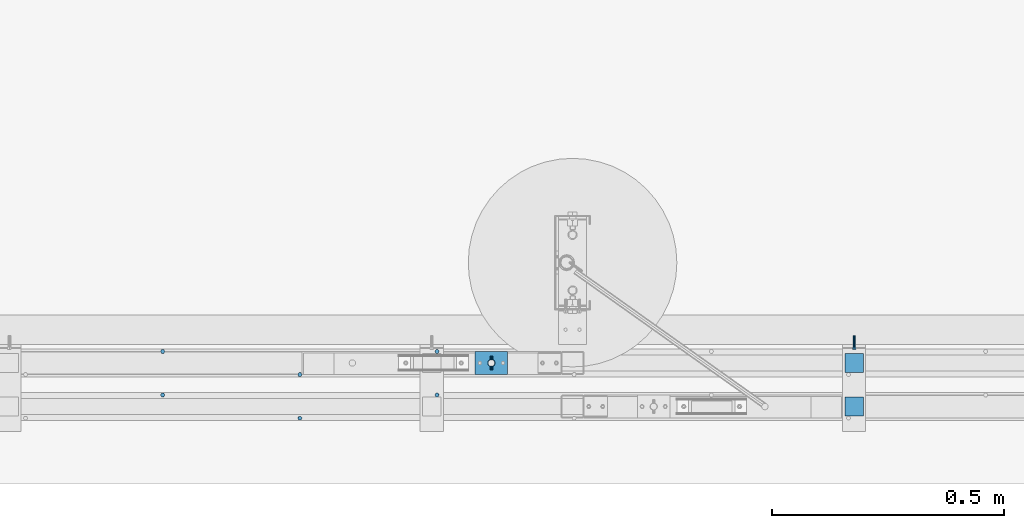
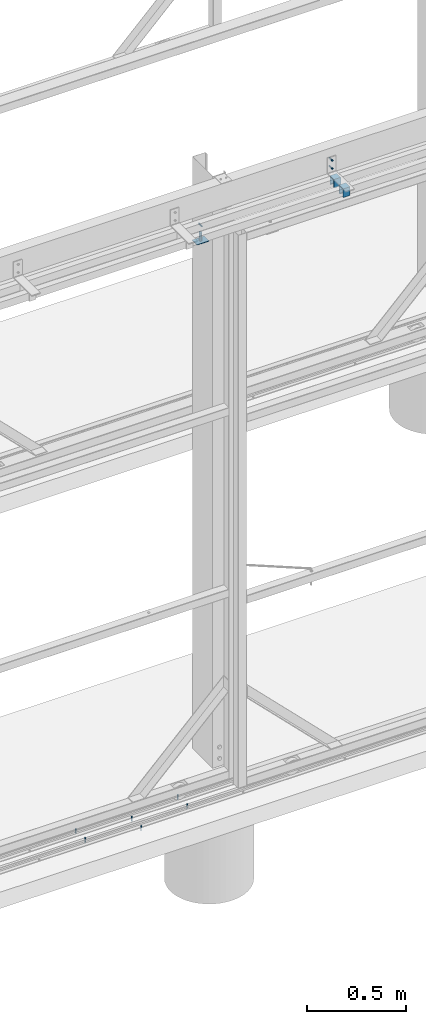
# One storey, part 29 of 91: 8 mechanical fasteners, 4 discrete accessories, 5 elements without a shape of their own.
"""IFC2X3 building model written with IfcOpenShell, lengths in millimetres."""

from ifc_helpers import new_model, si_unit, frame, origin_with_axes, origin_2d_with_axis, place, context, subcontext, project, spatial, polyline, circle, c_section, outline, extrude, source, transform, mapped, material, type_object, element, aggregate, save


model = new_model("IFC2X3")

# Units and contexts
model_context = context("Model", 3, precision=1e-05, world=origin_with_axes())
body_context = subcontext(model_context, "Body", "Model", "MODEL_VIEW")
ifc_project = project(units=[si_unit("LENGTHUNIT", "METRE", prefix="MILLI"), si_unit("AREAUNIT", "SQUARE_METRE"), si_unit("VOLUMEUNIT", "CUBIC_METRE"), si_unit("MASSUNIT", "GRAM", prefix="KILO"), si_unit("TIMEUNIT", "SECOND"), si_unit("PLANEANGLEUNIT", "RADIAN"), si_unit("SOLIDANGLEUNIT", "STERADIAN"), si_unit("THERMODYNAMICTEMPERATUREUNIT", "DEGREE_CELSIUS"), si_unit("LUMINOUSINTENSITYUNIT", "LUMEN")], contexts=[model_context])

# Site, building, storey
site_placement = place(None, origin_with_axes())
site = spatial("IfcSite", under=ifc_project, at=site_placement, Name="Undefined", CompositionType="ELEMENT")
building_placement = place(site_placement, origin_with_axes())
building = spatial("IfcBuilding", under=site, at=building_placement, Name="Undefined", CompositionType="ELEMENT")
storey_placement = place(building_placement, origin_with_axes())
storey = spatial("IfcBuildingStorey", under=building, at=storey_placement, Name="Undefined", CompositionType="ELEMENT", Elevation=0.0)

# Assembly, discrete accessory
assembly_1_placement = place(storey_placement, origin_with_axes())
assembly_1 = element("IfcElementAssembly", 1, at=assembly_1_placement, inside=storey, Name="ROD", AssemblyPlace="NOTDEFINED", PredefinedType="RIGID_FRAME")
ifc_material_1 = material(Name="STEEL/250")
discrete_accessory_type_1 = type_object("IfcDiscreteAccessoryType", Name="PLATE")
discrete_accessory_1_placement = place(assembly_1_placement, frame((-113968.34, 84737.15, 3324.5), z_axis=(0.0, 0.0, 1.0), x_axis=(0.0, -1.0, 0.0)))
discrete_accessory_1 = element("IfcDiscreteAccessory", 2, at=discrete_accessory_1_placement, type_object=discrete_accessory_type_1, material=ifc_material_1, Name="PLATE", ObjectType="PLT3*50", context=body_context, shape_type="SweptSolid", body=[
    extrude(outline(polyline([(0.0, 0.0), (50.0, 0.0), (50.0, 70.0), (0.0, 70.0), (0.0, 0.0)])), frame((0.0, 0.0, -1.5), z_axis=(0.0, 0.0, 1.0), x_axis=(1.0, 0.0, 0.0)), (0.0, 0.0, 1.0), 3.0),
])

# Assembly, mechanical fastener
assembly_2_placement = place(storey_placement, origin_with_axes())
assembly_2 = element("IfcElementAssembly", 3, at=assembly_2_placement, inside=storey, Name="SLIDING DOOR", AssemblyPlace="NOTDEFINED", PredefinedType="RIGID_FRAME")
ifc_material_2 = material(Name="8.8S")
discrete_accessory_type_2 = type_object("IfcDiscreteAccessoryType", Name="Bolt assembly")
shared_shape_1 = source(origin_with_axes(), body_context, "Body", "SweptSolid", [
    extrude(circle(Radius=8.0, at=origin_2d_with_axis()), frame((0.0, 0.0, 0.0), z_axis=(0.0, 1.0, 0.0), x_axis=(1.0, 0.0, 0.0)), (0.0, 0.0, 1.0), 50.1),
])
mechanical_fastener_1_placement = place(assembly_2_placement, frame((-113933.34, 84712.15, 3326.0), z_axis=(0.0, 1.0, 0.0), x_axis=(-1.0, 0.0, 0.0)))
mechanical_fastener_1 = element("IfcMechanicalFastener", 4, at=mechanical_fastener_1_placement, type_object=discrete_accessory_type_2, material=ifc_material_2, Name="Bolt assembly", NominalDiameter=10.0, NominalLength=50.0, context=body_context, shape_type="MappedRepresentation", body=[
    mapped(shared_shape_1, transform((0.0, 0.0, 0.0))),
])
aggregate(assembly_2, [mechanical_fastener_1])

# Discrete accessory
discrete_accessory_type_3 = type_object("IfcDiscreteAccessoryType", Name="SPRING PIN")
discrete_accessory_2_placement = place(assembly_1_placement, frame((-113933.34, 84697.15, 3421.0), z_axis=(1.0, 0.0, 0.0), x_axis=(0.0, 1.0, 0.0)))
discrete_accessory_2 = element("IfcDiscreteAccessory", 5, at=discrete_accessory_2_placement, type_object=discrete_accessory_type_3, material=ifc_material_1, Name="SPRING PIN", ObjectType="D6", context=body_context, shape_type="SweptSolid", body=[
    extrude(circle(Radius=3.0, at=origin_2d_with_axis()), frame((30.0, 0.0, 0.0), z_axis=(-1.0, 0.0, 0.0), x_axis=(0.0, -1.0, 0.0)), (0.0, 0.0, 1.0), 30.0),
])

aggregate(assembly_1, [discrete_accessory_2, discrete_accessory_1])

# Assembly, mechanical fastener
assembly_3_placement = place(storey_placement, origin_with_axes())
assembly_3 = element("IfcElementAssembly", 6, at=assembly_3_placement, inside=storey, Name="DOOR BRACKET", AssemblyPlace="NOTDEFINED", PredefinedType="RIGID_FRAME")
ifc_material_3 = material(Name="TEK_11TPIM")
shared_shape_2 = source(origin_with_axes(), body_context, "Body", "SweptSolid", [
    extrude(circle(Radius=3.0, at=origin_2d_with_axis()), frame((0.0, -6.0, 0.0), z_axis=(0.0, 1.0, 0.0), x_axis=(1.0, 0.0, 0.0)), (0.0, 0.0, 1.0), 6.1),
    extrude(outline(polyline([(4.61880215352, 0.0), (2.30940107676, 4.00000000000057), (-2.30940107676, 4.00000000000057), (-4.61880215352, 0.0), (-2.30940107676, -4.00000000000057), (2.30940107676, -4.00000000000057), (4.61880215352, 0.0)])), frame((0.0, -11.1000000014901, 0.0), z_axis=(0.0, 1.0, 0.0), x_axis=(1.0, 0.0, 0.0)), (0.0, 0.0, 1.0), 5.0),
    extrude(circle(Radius=3.0, at=origin_2d_with_axis()), frame((0.0, -6.10000000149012, 0.0), z_axis=(0.0, 1.0, 0.0), x_axis=(1.0, 0.0, 0.0)), (0.0, 0.0, 1.0), 25.0),
    extrude(circle(Radius=3.0, at=origin_2d_with_axis()), frame((0.0, -6.10000000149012, 0.0), z_axis=(0.0, 1.0, 0.0), x_axis=(1.0, 0.0, 0.0)), (0.0, 0.0, 1.0), 0.1),
    extrude(circle(Radius=3.0, at=origin_2d_with_axis()), frame((0.0, 0.0, 0.0), z_axis=(0.0, 1.0, 0.0), x_axis=(1.0, 0.0, 0.0)), (0.0, 0.0, 1.0), 0.1),
    extrude(outline(polyline([(3.46410161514, 0.0), (1.73205080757, 3.00000000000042), (-1.73205080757, 3.00000000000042), (-3.46410161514, 0.0), (-1.73205080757, -3.00000000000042), (1.73205080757, -3.00000000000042), (3.46410161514, 0.0)])), frame((0.0, 0.1, 0.0), z_axis=(0.0, 1.0, 0.0), x_axis=(1.0, 0.0, 0.0)), (0.0, 0.0, 1.0), 0.1),
])
mechanical_fastener_2_placement = place(assembly_3_placement, frame((-113150.84, 84752.15, 3524.0), z_axis=(1.0, 0.0, 0.0), x_axis=(0.0, 0.0, -1.0)))
mechanical_fastener_2 = element("IfcMechanicalFastener", 7, at=mechanical_fastener_2_placement, type_object=discrete_accessory_type_2, material=ifc_material_3, Name="Bolt assembly", NominalDiameter=6.0, NominalLength=25.0, context=body_context, shape_type="MappedRepresentation", body=[
    mapped(shared_shape_2, transform((0.0, 0.0, 0.0))),
    mapped(shared_shape_2, transform((50.0, 0.0, 0.0))),
])

# Assembly, mechanical fasteners
assembly_4_placement = place(storey_placement, origin_with_axes())
assembly_4 = element("IfcElementAssembly", 8, at=assembly_4_placement, inside=storey, Name="DOOR TRACK", AssemblyPlace="NOTDEFINED", PredefinedType="RIGID_FRAME")
ifc_material_4 = material(Name="TEK_10TPII")
shared_shape_3 = source(origin_with_axes(), body_context, "Body", "SweptSolid", [
    extrude(circle(Radius=4.07999992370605, at=origin_2d_with_axis()), frame((0.0, 0.0, 0.0), z_axis=(0.0, 1.0, 0.0), x_axis=(1.0, 0.0, 0.0)), (0.0, 0.0, 1.0), 3.1),
    extrude(outline(polyline([(4.61880215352, 0.0), (2.30940107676, 4.00000000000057), (-2.30940107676, 4.00000000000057), (-4.61880215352, 0.0), (-2.30940107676, -4.00000000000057), (2.30940107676, -4.00000000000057), (4.61880215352, 0.0)])), frame((0.0, -5.0, 0.0), z_axis=(0.0, 1.0, 0.0), x_axis=(1.0, 0.0, 0.0)), (0.0, 0.0, 1.0), 5.0),
    extrude(circle(Radius=3.07999992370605, at=origin_2d_with_axis()), frame((0.0, 0.0, 0.0), z_axis=(0.0, 1.0, 0.0), x_axis=(1.0, 0.0, 0.0)), (0.0, 0.0, 1.0), 25.0),
    extrude(circle(Radius=3.0, at=origin_2d_with_axis()), frame((0.0, 3.0, 0.0), z_axis=(0.0, 1.0, 0.0), x_axis=(1.0, 0.0, 0.0)), (0.0, 0.0, 1.0), 0.1),
    extrude(outline(polyline([(3.46410161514, 0.0), (1.73205080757, 3.00000000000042), (-1.73205080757, 3.00000000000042), (-3.46410161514, 0.0), (-1.73205080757, -3.00000000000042), (1.73205080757, -3.00000000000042), (3.46410161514, 0.0)])), frame((0.0, 3.10000000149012, 0.0), z_axis=(0.0, 1.0, 0.0), x_axis=(1.0, 0.0, 0.0)), (0.0, 0.0, 1.0), 0.1),
])
mechanical_fastener_3_placement = place(assembly_4_placement, frame((-114050.74, 84737.151953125, -54.0), z_axis=(0.0, 1.0, 0.0), x_axis=(1.0, 0.0, 0.0)))
mechanical_fastener_3 = element("IfcMechanicalFastener", 9, at=mechanical_fastener_3_placement, type_object=discrete_accessory_type_2, material=ifc_material_4, Name="Bolt assembly", NominalDiameter=6.15999984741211, NominalLength=25.0, context=body_context, shape_type="MappedRepresentation", body=[
    mapped(shared_shape_3, transform((0.0, 0.0, 0.0))),
])
mechanical_fastener_4_placement = place(assembly_4_placement, frame((-114346.64, 84687.151953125, -54.0), z_axis=(0.0, 1.0, 0.0), x_axis=(1.0, 0.0, 0.0)))
mechanical_fastener_4 = element("IfcMechanicalFastener", 10, at=mechanical_fastener_4_placement, type_object=discrete_accessory_type_2, material=ifc_material_4, Name="Bolt assembly", NominalDiameter=6.15999984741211, NominalLength=25.0, context=body_context, shape_type="MappedRepresentation", body=[
    mapped(shared_shape_3, transform((0.0, 0.0, 0.0))),
])
mechanical_fastener_5_placement = place(assembly_4_placement, frame((-114642.54, 84737.151953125, -54.0), z_axis=(0.0, 1.0, 0.0), x_axis=(1.0, 0.0, 0.0)))
mechanical_fastener_5 = element("IfcMechanicalFastener", 11, at=mechanical_fastener_5_placement, type_object=discrete_accessory_type_2, material=ifc_material_4, Name="Bolt assembly", NominalDiameter=6.15999984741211, NominalLength=25.0, context=body_context, shape_type="MappedRepresentation", body=[
    mapped(shared_shape_3, transform((0.0, 0.0, 0.0))),
])
aggregate(assembly_4, [mechanical_fastener_3, mechanical_fastener_4, mechanical_fastener_5])

assembly_5_placement = place(storey_placement, origin_with_axes())
assembly_5 = element("IfcElementAssembly", 12, at=assembly_5_placement, inside=storey, Name="DOOR TRACK", AssemblyPlace="NOTDEFINED", PredefinedType="RIGID_FRAME")
mechanical_fastener_6_placement = place(assembly_5_placement, frame((-114050.74, 84643.151953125, -54.0), z_axis=(0.0, 1.0, 0.0), x_axis=(1.0, 0.0, 0.0)))
mechanical_fastener_6 = element("IfcMechanicalFastener", 13, at=mechanical_fastener_6_placement, type_object=discrete_accessory_type_2, material=ifc_material_4, Name="Bolt assembly", NominalDiameter=6.15999984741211, NominalLength=25.0, context=body_context, shape_type="MappedRepresentation", body=[
    mapped(shared_shape_3, transform((0.0, 0.0, 0.0))),
])
mechanical_fastener_7_placement = place(assembly_5_placement, frame((-114346.64, 84593.151953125, -54.0), z_axis=(0.0, 1.0, 0.0), x_axis=(1.0, 0.0, 0.0)))
mechanical_fastener_7 = element("IfcMechanicalFastener", 14, at=mechanical_fastener_7_placement, type_object=discrete_accessory_type_2, material=ifc_material_4, Name="Bolt assembly", NominalDiameter=6.15999984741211, NominalLength=25.0, context=body_context, shape_type="MappedRepresentation", body=[
    mapped(shared_shape_3, transform((0.0, 0.0, 0.0))),
])
mechanical_fastener_8_placement = place(assembly_5_placement, frame((-114642.54, 84643.151953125, -54.0), z_axis=(0.0, 1.0, 0.0), x_axis=(1.0, 0.0, 0.0)))
mechanical_fastener_8 = element("IfcMechanicalFastener", 15, at=mechanical_fastener_8_placement, type_object=discrete_accessory_type_2, material=ifc_material_4, Name="Bolt assembly", NominalDiameter=6.15999984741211, NominalLength=25.0, context=body_context, shape_type="MappedRepresentation", body=[
    mapped(shared_shape_3, transform((0.0, 0.0, 0.0))),
])
aggregate(assembly_5, [mechanical_fastener_6, mechanical_fastener_7, mechanical_fastener_8])

# Discrete accessory
discrete_accessory_type_4 = type_object("IfcDiscreteAccessoryType", Name="SLIDING DOOR BRACKET")
discrete_accessory_3_placement = place(assembly_3_placement, frame((-113170.84, 84618.15, 3417.5), z_axis=(0.0, -1.0, 0.0), x_axis=(1.0, 0.0, 0.0)))
discrete_accessory_3 = element("IfcDiscreteAccessory", 16, at=discrete_accessory_3_placement, type_object=discrete_accessory_type_4, material=ifc_material_1, Name="SLIDING DOOR BRACKET", ObjectType="CC41-1.5-7-53", context=body_context, shape_type="SweptSolid", body=[
    extrude(c_section(Depth=41.0, Width=53.0, WallThickness=1.5, Girth=7.0, at=origin_2d_with_axis()), frame((40.0, 0.0, 0.0), z_axis=(-1.0, 0.0, 0.0), x_axis=(0.0, -1.0, 0.0)), (0.0, 0.0, 1.0), 40.0),
])

discrete_accessory_4_placement = place(assembly_3_placement, frame((-113170.84, 84712.15, 3417.5), z_axis=(0.0, -1.0, 0.0), x_axis=(1.0, 0.0, 0.0)))
discrete_accessory_4 = element("IfcDiscreteAccessory", 17, at=discrete_accessory_4_placement, type_object=discrete_accessory_type_4, material=ifc_material_1, Name="SLIDING DOOR BRACKET", ObjectType="CC41-1.5-7-53", context=body_context, shape_type="SweptSolid", body=[
    extrude(c_section(Depth=41.0, Width=53.0, WallThickness=1.5, Girth=7.0, at=origin_2d_with_axis()), frame((40.0, 0.0, 0.0), z_axis=(-1.0, 0.0, 0.0), x_axis=(0.0, -1.0, 0.0)), (0.0, 0.0, 1.0), 40.0),
])

aggregate(assembly_3, [mechanical_fastener_2, discrete_accessory_3, discrete_accessory_4])

save(model, "model.ifc")
